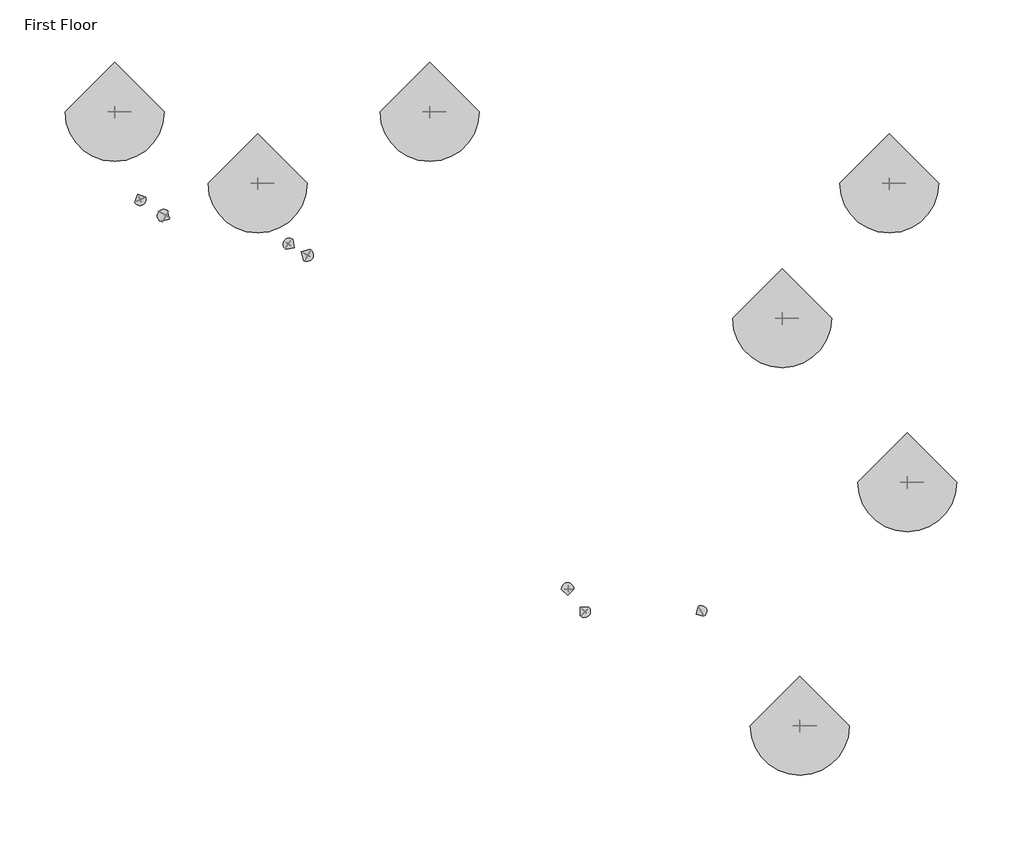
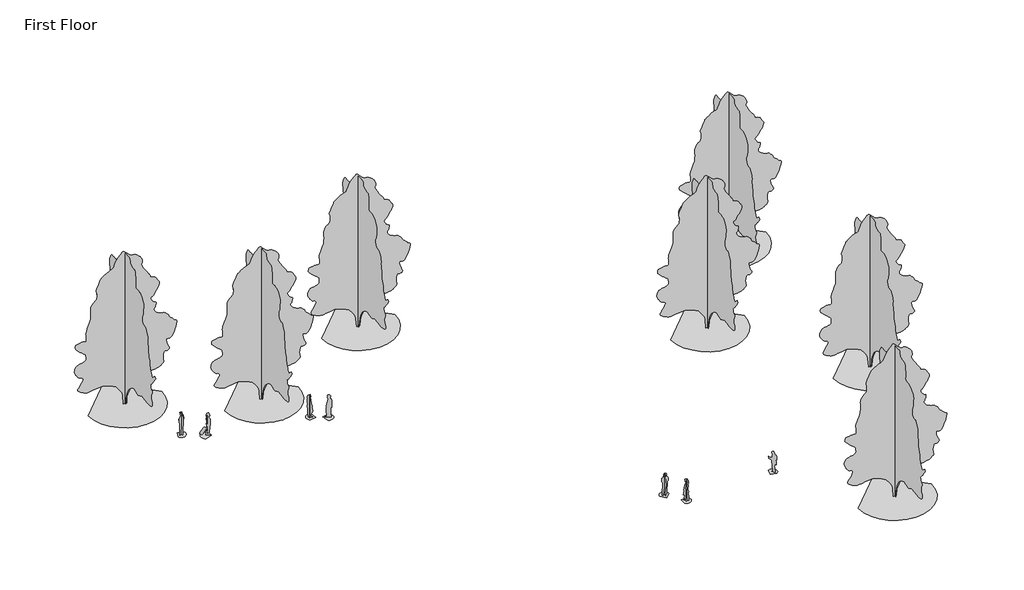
# One storey, incomplete: 7 geographic elements, 7 proxies.
"""IFC4 building model written with IfcOpenShell, lengths in millimetres."""

from ifc_helpers import new_model, si_unit, origin, place, context, project, spatial, transform, mapped, element, save
from components import m_rpc_female_878ef173, m_rpc_female_2c6db5d7, m_rpc_female_2a7e0e44, m_rpc_female_7b1a36b3, m_rpc_male_e00c4429, m_rpc_male_6f5007d1, m_rpc_male_b993872a, m_rpc_tree_deciduous_lombardy_poplar_12_2_meters_1b309f58

model = new_model("IFC4")

# Units and contexts
model_context = context("Model", 3, world=origin())
ifc_project = project(units=[si_unit("LENGTHUNIT", "METRE", prefix="MILLI")], contexts=[model_context])

# Site, building, storey
site = spatial("IfcSite", under=ifc_project)
building = spatial("IfcBuilding", under=site)
storey = spatial("IfcBuildingStorey", under=building, Name="First Floor", Elevation=0.0)

# Proxies
placement = place(None, origin())
m_rpc_female_shape = m_rpc_female_878ef173(model_context)
element("IfcBuildingElementProxy", 1, Name="M_RPC Female : Cathy", ObjectType="M_RPC Female : Cathy", at=placement, inside=storey, context=model_context, shape_type="MappedRepresentation", body=[
    mapped(m_rpc_female_shape, transform((-21242.9105905, 10547.8851347, 0.0), x_axis=(-0.49999999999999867, -0.8660254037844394, 0.0), y_axis=(0.8660254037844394, -0.49999999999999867, 0.0), z_axis=(0.0, 0.0, 1.0))),
])
m_rpc_female_2_shape = m_rpc_female_2c6db5d7(model_context)
element("IfcBuildingElementProxy", 2, Name="M_RPC Female : Tina", ObjectType="M_RPC Female : Tina", at=placement, inside=storey, context=model_context, shape_type="MappedRepresentation", body=[
    mapped(m_rpc_female_2_shape, transform((2298.6691392, -11588.1148653, 0.0), x_axis=(0.7071067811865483, 0.7071067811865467, 0.0), y_axis=(-0.7071067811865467, 0.7071067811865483, 0.0), z_axis=(0.0, 0.0, 1.0))),
])
m_rpc_female_3_shape = m_rpc_female_2a7e0e44(model_context)
element("IfcBuildingElementProxy", 3, Name="M_RPC Female : YinYin", ObjectType="M_RPC Female : YinYin", at=placement, inside=storey, context=model_context, shape_type="MappedRepresentation", body=[
    mapped(m_rpc_female_3_shape, transform((-14214.7548077, 8947.8851347, 0.0), x_axis=(-0.5735764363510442, -0.8191520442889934, 0.0), y_axis=(0.8191520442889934, -0.5735764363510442, 0.0), z_axis=(0.0, 0.0, 1.0))),
])
m_rpc_female_4_shape = m_rpc_female_7b1a36b3(model_context)
element("IfcBuildingElementProxy", 4, Name="M_RPC Female : Lisa", ObjectType="M_RPC Female : Lisa", at=placement, inside=storey, context=model_context, shape_type="MappedRepresentation", body=[
    mapped(m_rpc_female_4_shape, transform((8828.9972207, -11588.1148653, 0.0), x_axis=(-0.500951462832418, 0.8654753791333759, 0.0), y_axis=(-0.8654753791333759, -0.500951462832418, 0.0), z_axis=(0.0, 0.0, 1.0))),
])
m_rpc_male_shape = m_rpc_male_e00c4429(model_context)
element("IfcBuildingElementProxy", 5, Name="M_RPC Male : Dwayne", ObjectType="M_RPC Male : Dwayne", at=placement, inside=storey, context=model_context, shape_type="MappedRepresentation", body=[
    mapped(m_rpc_male_shape, transform((-22541.5915504, 11447.8851347, 0.0), x_axis=(0.9063077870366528, 0.4226182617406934, 0.0), y_axis=(-0.4226182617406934, 0.9063077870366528, 0.0), z_axis=(0.0, 0.0, 1.0))),
])
m_rpc_male_2_shape = m_rpc_male_6f5007d1(model_context)
element("IfcBuildingElementProxy", 6, Name="M_RPC Male : Alex", ObjectType="M_RPC Male : Alex", at=placement, inside=storey, context=model_context, shape_type="MappedRepresentation", body=[
    mapped(m_rpc_male_2_shape, transform((-13221.6458384, 8347.8851347, 0.0), x_axis=(0.5000000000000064, 0.8660254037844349, 0.0), y_axis=(-0.8660254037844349, 0.5000000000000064, 0.0), z_axis=(0.0, 0.0, 1.0))),
])
m_rpc_male_3_shape = m_rpc_male_b993872a(model_context)
element("IfcBuildingElementProxy", 7, Name="M_RPC Male : Jay", ObjectType="M_RPC Male : Jay", at=placement, inside=storey, context=model_context, shape_type="MappedRepresentation", body=[
    mapped(m_rpc_male_3_shape, transform((1361.5817015, -10340.1148653, 0.0), x_axis=(-1.0, 0.0, 0.0), y_axis=(0.0, -1.0, 0.0), z_axis=(0.0, 0.0, 1.0))),
])

# Geographic elements
m_rpc_tree_deciduous_lombardy_poplar_12_2_meters_shape = m_rpc_tree_deciduous_lombardy_poplar_12_2_meters_1b309f58(model_context)
element("IfcGeographicElement", 8, ObjectType="M_RPC Tree - Deciduous : Lombardy Poplar - 12.2 Meters", at=placement, inside=storey, context=model_context, shape_type="MappedRepresentation", body=[
    mapped(m_rpc_tree_deciduous_lombardy_poplar_12_2_meters_shape, transform((-15979.1044048, 12347.8851347, 0.0), x_axis=(1.0, 0.0, 0.0), y_axis=(0.0, 1.0, 0.0), z_axis=(0.0, 0.0, 1.0))),
])
element("IfcGeographicElement", 9, ObjectType="M_RPC Tree - Deciduous : Lombardy Poplar - 12.2 Meters", at=placement, inside=storey, context=model_context, shape_type="MappedRepresentation", body=[
    mapped(m_rpc_tree_deciduous_lombardy_poplar_12_2_meters_shape, transform((-23979.1044048, 16347.8851347, 0.0), x_axis=(1.0, 0.0, 0.0), y_axis=(0.0, 1.0, 0.0), z_axis=(0.0, 0.0, 1.0))),
])
element("IfcGeographicElement", 10, ObjectType="M_RPC Tree - Deciduous : Lombardy Poplar - 12.2 Meters", at=placement, inside=storey, context=model_context, shape_type="MappedRepresentation", body=[
    mapped(m_rpc_tree_deciduous_lombardy_poplar_12_2_meters_shape, transform((-6359.1044048, 16347.8851347, 0.0), x_axis=(1.0, 0.0, 0.0), y_axis=(0.0, 1.0, 0.0), z_axis=(0.0, 0.0, 1.0))),
])
element("IfcGeographicElement", 11, ObjectType="M_RPC Tree - Deciduous : Lombardy Poplar - 12.2 Meters", at=placement, inside=storey, context=model_context, shape_type="MappedRepresentation", body=[
    mapped(m_rpc_tree_deciduous_lombardy_poplar_12_2_meters_shape, transform((19356.8955952, 12347.8851347, 0.0), x_axis=(1.0, 0.0, 0.0), y_axis=(0.0, 1.0, 0.0), z_axis=(0.0, 0.0, 1.0))),
])
element("IfcGeographicElement", 12, ObjectType="M_RPC Tree - Deciduous : Lombardy Poplar - 12.2 Meters", at=placement, inside=storey, context=model_context, shape_type="MappedRepresentation", body=[
    mapped(m_rpc_tree_deciduous_lombardy_poplar_12_2_meters_shape, transform((13356.8955952, 4804.5851347, 0.0), x_axis=(1.0, 0.0, 0.0), y_axis=(0.0, 1.0, 0.0), z_axis=(0.0, 0.0, 1.0))),
])
element("IfcGeographicElement", 13, ObjectType="M_RPC Tree - Deciduous : Lombardy Poplar - 12.2 Meters", at=placement, inside=storey, context=model_context, shape_type="MappedRepresentation", body=[
    mapped(m_rpc_tree_deciduous_lombardy_poplar_12_2_meters_shape, transform((20356.8955952, -4368.1148653, 0.0), x_axis=(1.0, 0.0, 0.0), y_axis=(0.0, 1.0, 0.0), z_axis=(0.0, 0.0, 1.0))),
])
element("IfcGeographicElement", 14, ObjectType="M_RPC Tree - Deciduous : Lombardy Poplar - 12.2 Meters", at=placement, inside=storey, context=model_context, shape_type="MappedRepresentation", body=[
    mapped(m_rpc_tree_deciduous_lombardy_poplar_12_2_meters_shape, transform((14356.8955952, -17988.1148653, 0.0), x_axis=(1.0, 0.0, 0.0), y_axis=(0.0, 1.0, 0.0), z_axis=(0.0, 0.0, 1.0))),
])

save(model, "model.ifc")
